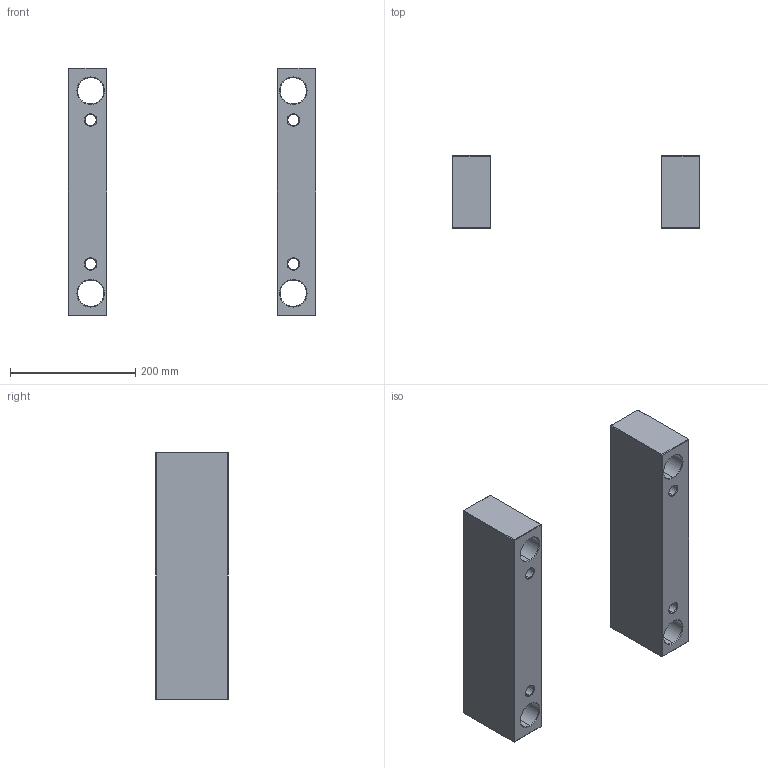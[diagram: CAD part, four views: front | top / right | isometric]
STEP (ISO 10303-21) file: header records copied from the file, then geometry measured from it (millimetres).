
FILE_DESCRIPTION (( 'STEP AP214' ), '1' );
FILE_NAME ('ESP-EU-396X396x116.STEP', '2020-04-16T11:29:27', ( 'August' ), ( '' ), 'SwSTEP 2.0', 'SolidWorks 2018', '' );
FILE_SCHEMA (( 'AUTOMOTIVE_DESIGN' ));
Length unit declared in the file: millimetre
Products named in the file (1): ESP-EU-396X396x116
Bounding box: 396 x 116 x 396 mm (x, y, z)
Volume: 4932089.1 mm3; surface area: 381504.2 mm2
Topology: 2 solids, 2 shells, 100 faces, 208 edges, 112 vertices
Faces by surface type: plane 52, cone 32, cylinder 16
Entity records: 2631 total; most frequent: DIRECTION 474, CARTESIAN_POINT 421, ORIENTED_EDGE 416, EDGE_CURVE 208, AXIS2_PLACEMENT_3D 165, LINE 144, VECTOR 144, EDGE_LOOP 116
